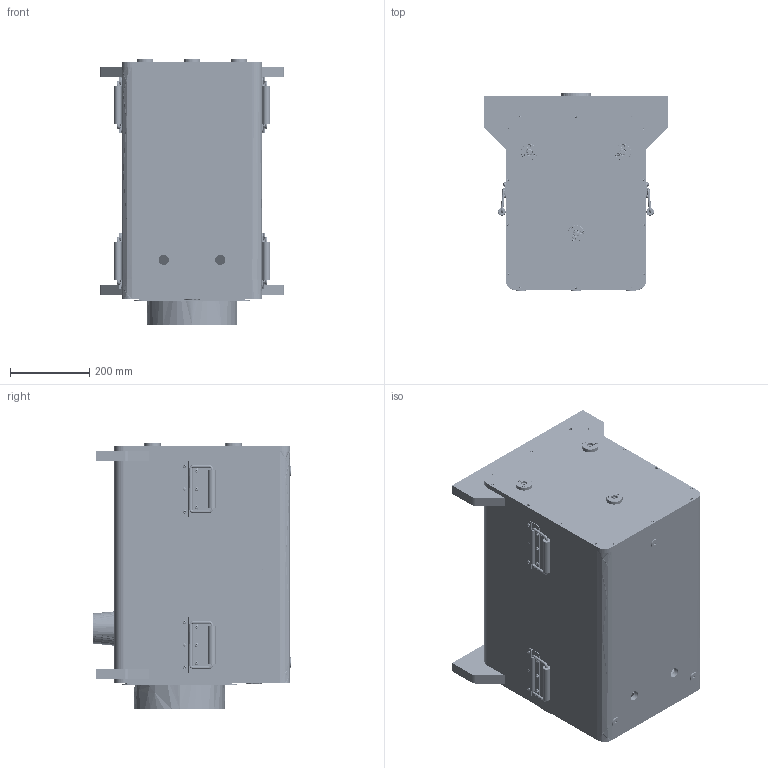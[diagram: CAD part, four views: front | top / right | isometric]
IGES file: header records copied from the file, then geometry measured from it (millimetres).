
Start section: SolidWorks IGES file using analytic representation for surfaces
Global section: file name: X:\ECO_SUB\052393\319-001-360\319-001-360_NC.IGS; native system: SolidWorks 2013; preprocessor: SolidWorks 2013; author: doug; date: 141001.083136; units: inch
Bounding box: 466.85 x 502.31 x 671.7 mm (x, y, z)
Surface area: 3707715.7 mm2 (no closed solid volume)
Topology: 0 solids, 0 shells, 4495 faces, 54290 edges, 54252 vertices
Faces by surface type: bspline 3510, revolution 985
